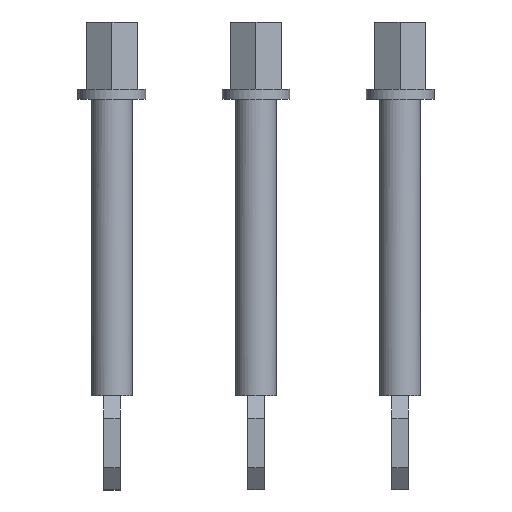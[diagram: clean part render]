
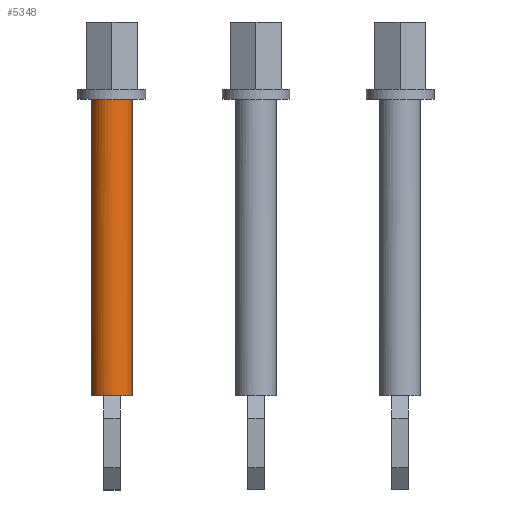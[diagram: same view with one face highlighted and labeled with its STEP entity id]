
A CAD part, front view. The second image highlights one B-rep face of the part: STEP entity #5348.
In plain terms, the highlighted cylindrical face has radius 5 mm (diameter 10 mm), a partial arc.
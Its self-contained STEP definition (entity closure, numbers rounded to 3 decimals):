
#143 = DIRECTION ( 'NONE',  ( 1., 0., 0. ) ) ;
#172 = DIRECTION ( 'NONE',  ( 0., 0., -1. ) ) ;
#191 = CARTESIAN_POINT ( 'NONE',  ( -35., -75., -73.15 ) ) ;
#209 = AXIS2_PLACEMENT_3D ( 'NONE', #2021, #1424, #7568 ) ;
#270 = VERTEX_POINT ( 'NONE', #5982 ) ;
#276 = AXIS2_PLACEMENT_3D ( 'NONE', #6067, #1530, #3528 ) ;
#321 = EDGE_CURVE ( 'NONE', #2758, #4281, #5001, .T. ) ;
#353 = LINE ( 'NONE', #5915, #1578 ) ;
#450 = CIRCLE ( 'NONE', #276, 5. ) ;
#525 = CARTESIAN_POINT ( 'NONE',  ( -35., -70., -73.15 ) ) ;
#695 = ORIENTED_EDGE ( 'NONE', *, *, #1139, .F. ) ;
#1099 = ORIENTED_EDGE ( 'NONE', *, *, #7294, .T. ) ;
#1105 = VECTOR ( 'NONE', #172, 1000. ) ;
#1139 = EDGE_CURVE ( 'NONE', #270, #2758, #6143, .T. ) ;
#1201 = AXIS2_PLACEMENT_3D ( 'NONE', #7494, #6256, #143 ) ;
#1326 = ORIENTED_EDGE ( 'NONE', *, *, #4896, .F. ) ;
#1424 = DIRECTION ( 'NONE',  ( 0., 0., -1. ) ) ;
#1530 = DIRECTION ( 'NONE',  ( 0., 0., -1. ) ) ;
#1578 = VECTOR ( 'NONE', #2906, 1000. ) ;
#1713 = DIRECTION ( 'NONE',  ( 1., 0., 0. ) ) ;
#2021 = CARTESIAN_POINT ( 'NONE',  ( -35., -70., -73.15 ) ) ;
#2174 = DIRECTION ( 'NONE',  ( 1., 0., 0. ) ) ;
#2224 = VERTEX_POINT ( 'NONE', #7389 ) ;
#2297 = EDGE_CURVE ( 'NONE', #2224, #6136, #353, .T. ) ;
#2353 = DIRECTION ( 'NONE',  ( 0., 0., -1. ) ) ;
#2560 = CARTESIAN_POINT ( 'NONE',  ( -35., -70., 1.35 ) ) ;
#2721 = ORIENTED_EDGE ( 'NONE', *, *, #4434, .F. ) ;
#2758 = VERTEX_POINT ( 'NONE', #6276 ) ;
#2906 = DIRECTION ( 'NONE',  ( 0., 0., -1. ) ) ;
#3053 = CIRCLE ( 'NONE', #4919, 5. ) ;
#3406 = VERTEX_POINT ( 'NONE', #191 ) ;
#3485 = VERTEX_POINT ( 'NONE', #4368 ) ;
#3528 = DIRECTION ( 'NONE',  ( 1., 0., 0. ) ) ;
#4281 = VERTEX_POINT ( 'NONE', #7634 ) ;
#4311 = EDGE_LOOP ( 'NONE', ( #1099, #7402, #1326, #2721, #6944, #5284, #695 ) ) ;
#4335 = AXIS2_PLACEMENT_3D ( 'NONE', #2560, #4458, #6322 ) ;
#4368 = CARTESIAN_POINT ( 'NONE',  ( -37., -74.583, -73.15 ) ) ;
#4434 = EDGE_CURVE ( 'NONE', #3406, #3485, #450, .T. ) ;
#4458 = DIRECTION ( 'NONE',  ( 0., 0., -1. ) ) ;
#4896 = EDGE_CURVE ( 'NONE', #3485, #6136, #7092, .T. ) ;
#4919 = AXIS2_PLACEMENT_3D ( 'NONE', #525, #2353, #1713 ) ;
#5001 = CIRCLE ( 'NONE', #5500, 5. ) ;
#5284 = ORIENTED_EDGE ( 'NONE', *, *, #321, .F. ) ;
#5294 = CARTESIAN_POINT ( 'NONE',  ( -40., -70., -73.15 ) ) ;
#5348 = ADVANCED_FACE ( 'NONE', ( #5630 ), #7642, .T. ) ;
#5500 = AXIS2_PLACEMENT_3D ( 'NONE', #7036, #7068, #2174 ) ;
#5630 = FACE_OUTER_BOUND ( 'NONE', #4311, .T. ) ;
#5915 = CARTESIAN_POINT ( 'NONE',  ( -40., -70., 1.35 ) ) ;
#5982 = CARTESIAN_POINT ( 'NONE',  ( -30., -70., -1.15 ) ) ;
#6067 = CARTESIAN_POINT ( 'NONE',  ( -35., -70., -73.15 ) ) ;
#6134 = CIRCLE ( 'NONE', #1201, 5. ) ;
#6136 = VERTEX_POINT ( 'NONE', #5294 ) ;
#6143 = LINE ( 'NONE', #6365, #1105 ) ;
#6256 = DIRECTION ( 'NONE',  ( 0., 0., -1. ) ) ;
#6276 = CARTESIAN_POINT ( 'NONE',  ( -30., -70., -73.15 ) ) ;
#6322 = DIRECTION ( 'NONE',  ( 1., 0., 0. ) ) ;
#6365 = CARTESIAN_POINT ( 'NONE',  ( -30., -70., 1.35 ) ) ;
#6371 = EDGE_CURVE ( 'NONE', #4281, #3406, #3053, .T. ) ;
#6944 = ORIENTED_EDGE ( 'NONE', *, *, #6371, .F. ) ;
#7036 = CARTESIAN_POINT ( 'NONE',  ( -35., -70., -73.15 ) ) ;
#7068 = DIRECTION ( 'NONE',  ( 0., 0., -1. ) ) ;
#7092 = CIRCLE ( 'NONE', #209, 5. ) ;
#7294 = EDGE_CURVE ( 'NONE', #270, #2224, #6134, .T. ) ;
#7389 = CARTESIAN_POINT ( 'NONE',  ( -40., -70., -1.15 ) ) ;
#7402 = ORIENTED_EDGE ( 'NONE', *, *, #2297, .T. ) ;
#7494 = CARTESIAN_POINT ( 'NONE',  ( -35., -70., -1.15 ) ) ;
#7568 = DIRECTION ( 'NONE',  ( 1., 0., 0. ) ) ;
#7634 = CARTESIAN_POINT ( 'NONE',  ( -33., -74.583, -73.15 ) ) ;
#7642 = CYLINDRICAL_SURFACE ( 'NONE', #4335, 5. ) ;
